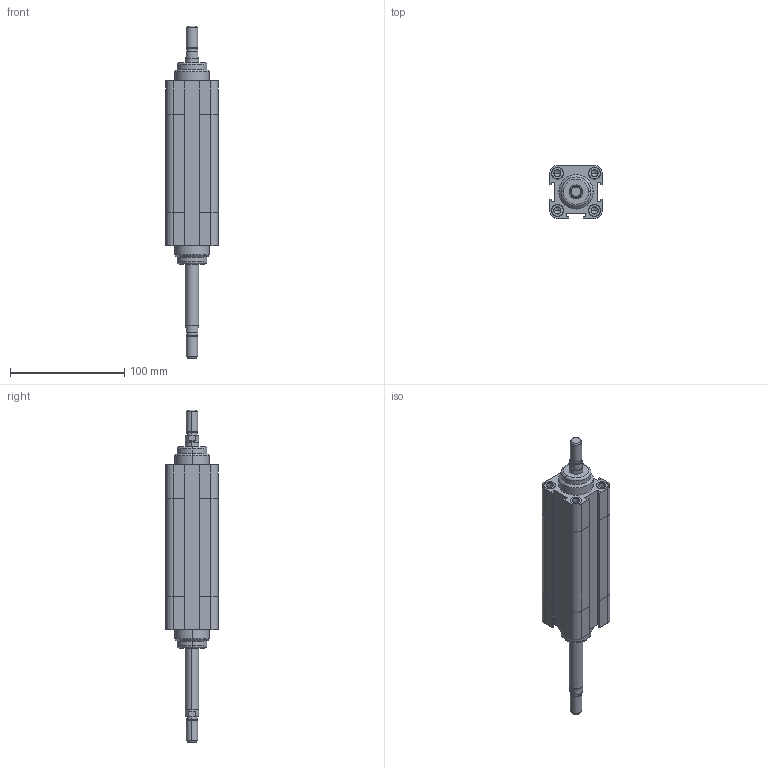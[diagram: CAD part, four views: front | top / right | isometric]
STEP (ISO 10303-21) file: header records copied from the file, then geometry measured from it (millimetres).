
FILE_DESCRIPTION((''),'2;1');
FILE_NAME('F:\Lib-3d\1380\CIL\1380_32_0050_02.stp','2004-01-07T15:57:26',('maffial1'),(''),'Autodesk Inventor 8','Autodesk Inventor 8','');
FILE_SCHEMA(('AUTOMOTIVE_DESIGN { 1 0 10303 214 1 1 1 1 }'));
Length unit declared in the file: millimetre
Products named in the file (3): 1380_32_0050_02; CPP04_32_50; CPP03_32_50
Assembly tree (2 placements, depth 2):
  1380_32_0050_02
    CPP04_32_50
    CPP03_32_50
Bounding box: 46 x 46 x 290 mm (x, y, z)
Volume: 294270.6 mm3; surface area: 61028.8 mm2
Topology: 2 solids, 2 shells, 236 faces, 564 edges, 356 vertices
Faces by surface type: plane 80, cylinder 66, bspline 62, cone 24, torus 4
Entity records: 7513 total; most frequent: CARTESIAN_POINT 2031, DIRECTION 1154, ORIENTED_EDGE 1096, EDGE_CURVE 548, AXIS2_PLACEMENT_3D 427, VERTEX_POINT 356, VECTOR 300, LINE 300
